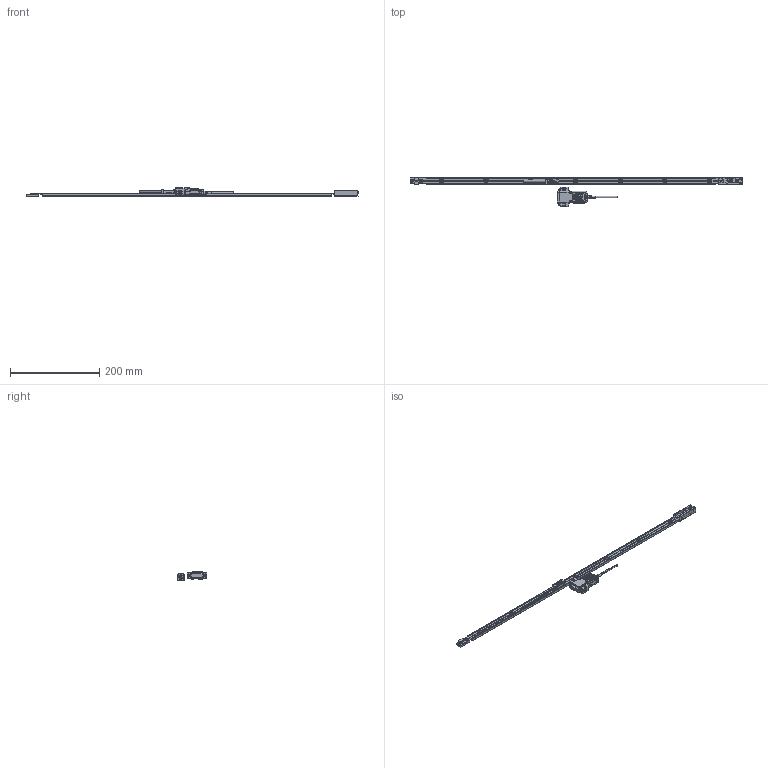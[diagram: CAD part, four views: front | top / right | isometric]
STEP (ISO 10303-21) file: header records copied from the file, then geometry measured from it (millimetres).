
FILE_DESCRIPTION(('Creo Elements/Direct Modeling STEP Export'),'2;1');
FILE_NAME('ST46EZA-600D.stp','2018-03-22T17:20:33',(''),(''),'Creo Elements/Direct Modeling STEP processor for AP214 (Solid Model)','Creo Elements/Direct Modeling 18.1B 29-Sep-2012 (C) Parametric Technology GmbH','');
FILE_SCHEMA(('AUTOMOTIVE_DESIGN { 1 0 10303 214 1 1 1 1 }'));
Products named in the file (4): IF_Unit; Detector_Head; Scale_600; ST46EZA-600D
Assembly tree (3 placements, depth 2):
  ST46EZA-600D
    Scale_600
    Detector_Head
    IF_Unit
Bounding box: 742 x 66.91 x 18.68 mm (x, y, z)
Volume: 3158.7 mm3; surface area: 55042.7 mm2
Topology: 1 solids, 4 shells, 2474 faces, 6625 edges, 4321 vertices
Faces by surface type: plane 1505, cylinder 812, extrusion 56, cone 38, torus 30, bspline 29, revolution 4
Entity records: 83869 total; most frequent: CARTESIAN_POINT 21807, ORIENTED_EDGE 13245, DIRECTION 11955, EDGE_CURVE 6627, VECTOR 4499, LINE 4463, VERTEX_POINT 4325, AXIS2_PLACEMENT_3D 3725
